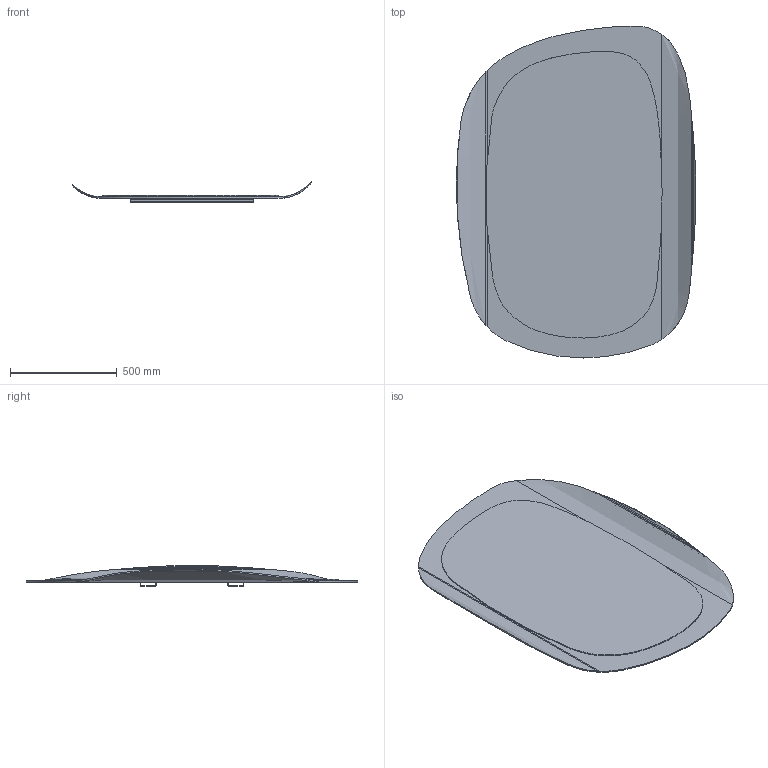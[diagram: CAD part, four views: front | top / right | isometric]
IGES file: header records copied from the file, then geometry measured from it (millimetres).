
Start section: SolidWorks IGES file using analytic representation for surfaces
Global section: file name: Y:\eforma\TECNICO\SOLIDWORKS\E-FORMA\4-SPECCHI\GALLERY\08 modelli 3D web\GAL01_Gallery_112x160.IGS; native system: SolidWorks 2022; preprocessor: SolidWorks 2022; author: eforma.tech; date: 240802.110320; units: millimetre
Bounding box: 1120.16 x 1555.49 x 95.12 mm (x, y, z)
Volume: 14134107.9 mm3; surface area: 5803635.7 mm2
Topology: 3 solids, 3 shells, 207 faces, 523 edges, 314 vertices
Faces by surface type: plane 117, revolution 90
